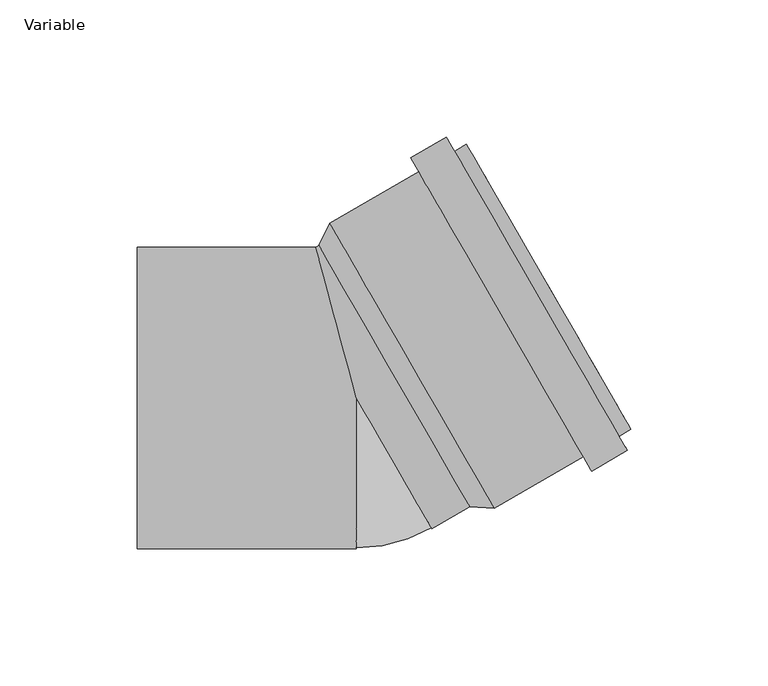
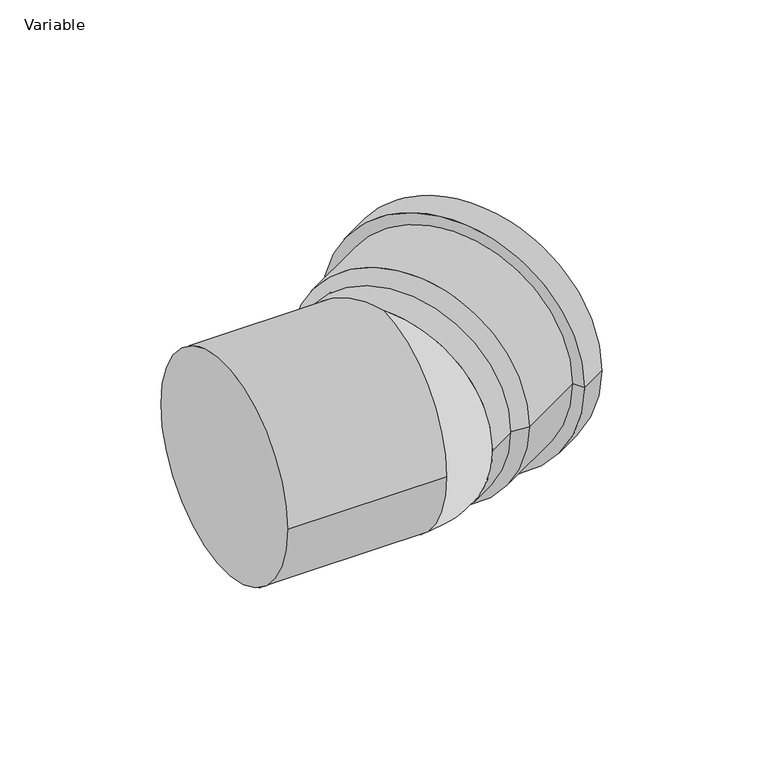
"""IFC4 building model written with IfcOpenShell, lengths in millimetres: pipe fitting geometry, AliaxisFR_Friaphon_ElbowMF_FR : Variable."""

from ifc_helpers import new_model, si_unit, point, frame, origin, place, context, project, spatial, polyline, circle_curve, ellipse_curve, trimmed, source, transform, mapped, element, save
from ifc_brep_helpers import plane_surface, cylinder_surface, revolved_surface, advanced_brep


def variable_3004ea0d(model_context):
    return source(origin(), model_context, "Body", "AdvancedBrep", [
        advanced_brep(
        [(100.1480577, -11.4615242, 0.0), (40.1480577, 92.4615242, 0.0), (42.6480577, 88.1313972, 0.0), (97.6480577, -7.1313972, 0.0), (85.8275496, -26.6576766, 0.0), (19.8275496, 87.6576766, 0.0), (32.8179307, 95.1576766, 0.0), (98.8179307, -19.1576766, 0.0), (82.8275496, -21.4615242, 0.0), (22.8275496, 82.4615242, 0.0), (50.351597, -40.2115242, 0.0), (-9.648403, 63.7115242, 0.0), (-13.6435935, 55.6313972, 0.0), (41.3564065, -39.6313972, 0.0), (95.8179307, -13.9615242, 0.0), (35.8179307, 89.9615242, 0.0)],
        [
            (0, 1, circle_curve(frame((70.1480577, 40.5, 0.0), z_axis=(0.866025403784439, 0.4999999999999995, 0.0), x_axis=(-0.4999999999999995, 0.866025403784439, 0.0)), 60.0)),
            (1, 2),
            (2, 3, circle_curve(frame((70.1480577, 40.5, 0.0), z_axis=(-0.866025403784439, -0.4999999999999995, 0.0), x_axis=(-0.4999999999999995, 0.866025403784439, 0.0)), 55.0)),
            (3, 0),
            (1, 0, circle_curve(frame((70.1480577, 40.5, 0.0), z_axis=(0.866025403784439, 0.4999999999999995, 0.0), x_axis=(-0.4999999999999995, 0.866025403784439, 0.0)), 60.0)),
            (3, 2, circle_curve(frame((70.1480577, 40.5, 0.0), z_axis=(-0.866025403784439, -0.4999999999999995, 0.0), x_axis=(-0.4999999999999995, 0.866025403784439, 0.0)), 55.0)),
            (4, 5, circle_curve(frame((52.8275496, 30.5, 0.0), z_axis=(0.866025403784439, 0.4999999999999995, 0.0), x_axis=(-0.4999999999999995, 0.866025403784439, 0.0)), 66.0)),
            (5, 6),
            (6, 7, circle_curve(frame((65.8179307, 38.0, 0.0), z_axis=(-0.866025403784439, -0.4999999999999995, 0.0), x_axis=(-0.4999999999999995, 0.866025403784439, 0.0)), 66.0)),
            (7, 4),
            (5, 4, circle_curve(frame((52.8275496, 30.5, 0.0), z_axis=(0.866025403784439, 0.4999999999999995, 0.0), x_axis=(-0.4999999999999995, 0.866025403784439, 0.0)), 66.0)),
            (7, 6, circle_curve(frame((65.8179307, 38.0, 0.0), z_axis=(-0.866025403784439, -0.4999999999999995, 0.0), x_axis=(-0.4999999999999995, 0.866025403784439, 0.0)), 66.0)),
            (8, 9, circle_curve(frame((52.8275496, 30.5, 0.0), z_axis=(0.866025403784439, 0.4999999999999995, 0.0), x_axis=(-0.4999999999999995, 0.866025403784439, 0.0)), 60.0)),
            (9, 5),
            (4, 8),
            (9, 8, circle_curve(frame((52.8275496, 30.5, 0.0), z_axis=(0.866025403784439, 0.4999999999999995, 0.0), x_axis=(-0.4999999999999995, 0.866025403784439, 0.0)), 60.0)),
            (10, 11, circle_curve(frame((20.351597, 11.75, 0.0), z_axis=(0.866025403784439, 0.4999999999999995, 0.0), x_axis=(-0.4999999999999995, 0.866025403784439, 0.0)), 60.0)),
            (11, 9),
            (8, 10),
            (11, 10, circle_curve(frame((20.351597, 11.75, 0.0), z_axis=(0.866025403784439, 0.4999999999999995, 0.0), x_axis=(-0.4999999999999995, 0.866025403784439, 0.0)), 60.0)),
            (2, 12),
            (12, 13, circle_curve(frame((13.8564065, 8.0, 0.0), z_axis=(-0.866025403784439, -0.4999999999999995, 0.0), x_axis=(-0.4999999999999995, 0.866025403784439, 0.0)), 55.0)),
            (13, 3),
            (13, 12, circle_curve(frame((13.8564065, 8.0, 0.0), z_axis=(-0.866025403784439, -0.4999999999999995, 0.0), x_axis=(-0.4999999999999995, 0.866025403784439, 0.0)), 55.0)),
            (12, 11),
            (10, 13),
            (14, 15, circle_curve(frame((65.8179307, 38.0, 0.0), z_axis=(0.866025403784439, 0.4999999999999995, 0.0), x_axis=(-0.4999999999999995, 0.866025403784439, 0.0)), 60.0)),
            (15, 1),
            (0, 14),
            (15, 14, circle_curve(frame((65.8179307, 38.0, 0.0), z_axis=(0.866025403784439, 0.4999999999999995, 0.0), x_axis=(-0.4999999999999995, 0.866025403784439, 0.0)), 60.0)),
            (6, 15),
            (14, 7),
        ],
        [
            plane_surface(frame((70.1480577, 40.5, 0.0), z_axis=(0.866025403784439, 0.4999999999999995, 0.0), x_axis=(-0.4999999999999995, 0.866025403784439, 0.0))),
            cylinder_surface(frame((13.8564065, 8.0, 0.0), z_axis=(-0.866025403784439, -0.4999999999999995, 0.0), x_axis=(-0.4999999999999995, 0.866025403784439, 0.0)), 66.0),
            plane_surface(frame((52.8275496, 30.5, 0.0), z_axis=(-0.866025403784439, -0.4999999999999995, 0.0), x_axis=(-0.4999999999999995, 0.866025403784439, 0.0))),
            cylinder_surface(frame((13.8564065, 8.0, 0.0), z_axis=(-0.866025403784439, -0.4999999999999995, 0.0), x_axis=(-0.4999999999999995, 0.866025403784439, 0.0)), 60.0),
            revolved_surface(polyline([(-13.643593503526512, 55.631397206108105, 0.0), (42.64805771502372, 88.13139719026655, 0.0)]), (13.8564065, 8.0, 0.0), (-0.866025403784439, -0.4999999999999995, 0.0)),
            revolved_surface(polyline([(-9.648403, 63.7115242, 0.0), (-13.6435935, 55.6313972, 0.0)]), (13.8564065, 8.0, 0.0), (-0.866025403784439, -0.4999999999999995, 0.0)),
            plane_surface(frame((65.8179307, 38.0, 0.0), z_axis=(0.866025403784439, 0.4999999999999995, 0.0), x_axis=(-0.4999999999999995, 0.866025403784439, 0.0))),
        ],
        [
            (0, [[1, 2, 3, 4]]),
            (0, [[5, -4, 6, -2]]),
            (1, [[7, 8, 9, 10]]),
            (1, [[11, -10, 12, -8]]),
            (2, [[13, 14, -7, 15]]),
            (2, [[16, -15, -11, -14]]),
            (3, [[17, 18, -13, 19]]),
            (3, [[20, -19, -16, -18]]),
            (4, [[-3, 21, 22, 23]]),
            (4, [[-6, -23, 24, -21]]),
            (5, [[-22, 25, -17, 26]]),
            (5, [[-24, -26, -20, -25]]),
            (3, [[27, 28, -1, 29]]),
            (3, [[30, -29, -5, -28]]),
            (6, [[-9, 31, -27, 32]]),
            (6, [[-12, -32, -30, -31]]),
        ],
    ),
        advanced_brep(
        [(-9.3134665, 58.1313972, 0.0), (45.6865335, -37.1313972, 0.0), (27.5, -47.6313972, 0.0), (-14.7372056, 55.0, 0.0), (0.0, 0.0, 55.0), (0.0, 0.0, -55.0), (-80.0, -55.0, 0.0), (-80.0, 55.0, 0.0), (0.0, -55.0, 0.0)],
        [
            (0, 1, circle_curve(frame((18.1865335, 10.5, 0.0), z_axis=(0.8660254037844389, 0.4999999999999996, 0.0), x_axis=(-0.4999999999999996, 0.8660254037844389, 0.0)), 55.0)),
            (1, 0, circle_curve(frame((18.1865335, 10.5, 0.0), z_axis=(0.8660254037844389, 0.4999999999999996, 0.0), x_axis=(-0.4999999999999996, 0.8660254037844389, 0.0)), 55.0)),
            (2, 1),
            (0, 3),
            (3, 4, ellipse_curve(frame((0.0, 0.0, 0.0), z_axis=(0.9659258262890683, 0.2588190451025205, 0.0), x_axis=(0.25881904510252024, -0.9659258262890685, 0.0)), 56.9401899, 55.0)),
            (4, 2, circle_curve(frame((0.0, 0.0, 0.0), z_axis=(0.8660254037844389, 0.4999999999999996, 0.0), x_axis=(-0.4999999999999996, 0.8660254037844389, 0.0)), 55.0)),
            (2, 5, circle_curve(frame((0.0, 0.0, 0.0), z_axis=(0.8660254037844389, 0.4999999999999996, 0.0), x_axis=(-0.4999999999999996, 0.8660254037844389, 0.0)), 55.0)),
            (5, 3, ellipse_curve(frame((0.0, 0.0, 0.0), z_axis=(0.9659258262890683, 0.2588190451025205, 0.0), x_axis=(0.25881904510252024, -0.9659258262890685, 0.0)), 56.9401899, 55.0)),
            (6, 7, circle_curve(frame((-80.0, 0.0, 0.0), z_axis=(-1.0, 0.0, 0.0), x_axis=(0.0, 1.0, 0.0)), 55.0)),
            (7, 6, circle_curve(frame((-80.0, 0.0, 0.0), z_axis=(-1.0, 0.0, 0.0), x_axis=(0.0, 1.0, 0.0)), 55.0)),
            (6, 8),
            (8, 4, circle_curve(frame((0.0, 0.0, 0.0), z_axis=(-1.0, 0.0, 0.0), x_axis=(0.0, 1.0, 0.0)), 55.0)),
            (3, 7),
            (5, 8, circle_curve(frame((0.0, 0.0, 0.0), z_axis=(-1.0, 0.0, 0.0), x_axis=(0.0, 1.0, 0.0)), 55.0)),
        ],
        [
            plane_surface(frame((18.1865335, 10.5, 0.0), z_axis=(0.8660254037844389, 0.49999999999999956, 0.0), x_axis=(0.0, 0.0, 1.0))),
            cylinder_surface(frame((0.0, 0.0, 0.0), z_axis=(-0.8660254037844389, -0.4999999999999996, 0.0), x_axis=(-0.4999999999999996, 0.8660254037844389, 0.0)), 55.0),
            plane_surface(frame((-80.0, 0.0, 0.0), z_axis=(-1.0, 0.0, 0.0), x_axis=(0.0, 0.0, 1.0))),
            cylinder_surface(frame((-80.0, 0.0, 0.0), z_axis=(-1.0, 0.0, 0.0), x_axis=(0.0, 1.0, 0.0)), 55.0),
            revolved_surface(trimmed(ellipse_curve(frame((0.0, 0.0, 0.0), z_axis=(0.8660254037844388, 0.49999999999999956, 0.0), x_axis=(-0.49999999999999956, 0.8660254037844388, 0.0)), 55.0, 55.0), [point((0.0, 0.0, 55.0))], [point((0.0, 0.0, -55.0))], True, "CARTESIAN"), (0.0, 0.0, 55.0), (0.0, 0.0, -1.0)),
        ],
        [
            (0, [[1, 2]]),
            (1, [[3, -1, 4, 5, 6]]),
            (1, [[-2, -3, 7, 8, -4]]),
            (2, [[9, 10]]),
            (3, [[-9, 11, 12, -5, 13]]),
            (3, [[-10, -13, -8, 14, -11]]),
            (4, [[-12, -14, -7, -6]]),
        ],
    ),
    ])


if __name__ == "__main__":
    model = new_model("IFC4")
    model_context = context("Model", 3, world=origin())
    ifc_project = project(units=[si_unit("LENGTHUNIT", "METRE", prefix="MILLI")], contexts=[model_context])
    site = spatial("IfcSite", under=ifc_project)
    building = spatial("IfcBuilding", under=site)
    placement = place(None, origin())
    variable_shape = variable_3004ea0d(model_context)
    element("IfcPipeFitting", 1, ObjectType="AliaxisFR_Friaphon_ElbowMF_FR : Variable", at=placement, inside=building, context=model_context, shape_type="MappedRepresentation", body=[
        mapped(variable_shape, transform((0.0, 0.0, 0.0), x_axis=(1.0, 0.0, 0.0), y_axis=(0.0, 1.0, 0.0), z_axis=(0.0, 0.0, 1.0))),
    ])
    save(model, "model.ifc")
